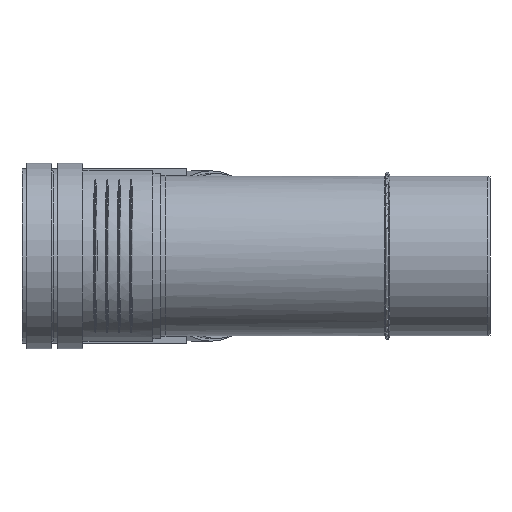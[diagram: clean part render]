
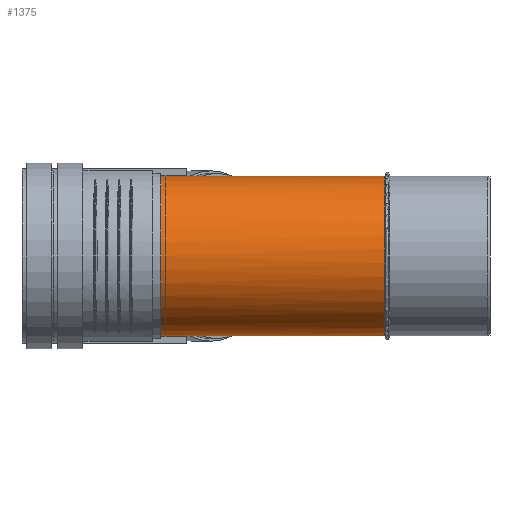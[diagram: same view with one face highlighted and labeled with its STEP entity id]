
A CAD part, left-side view. The second image highlights one B-rep face of the part: STEP entity #1375.
In plain terms, the highlighted cylindrical face has radius 55.1 mm (diameter 110.2 mm), a full revolution.
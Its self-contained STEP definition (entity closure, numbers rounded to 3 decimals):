
#115=ELLIPSE($,#1482,59.64,55.1);
#116=ELLIPSE($,#1483,143.983,55.1);
#117=ELLIPSE($,#1484,59.64,55.1);
#206=CYLINDRICAL_SURFACE($,#1481,55.1);
#265=FACE_BOUND($,#416,.T.);
#331=FACE_OUTER_BOUND($,#415,.T.);
#415=EDGE_LOOP($,(#941,#942,#943,#944));
#416=EDGE_LOOP($,(#945));
#553=CIRCLE($,#1477,55.1);
#555=CIRCLE($,#1485,55.1);
#628=VERTEX_POINT($,#2070);
#629=VERTEX_POINT($,#2071);
#631=VERTEX_POINT($,#2090);
#632=VERTEX_POINT($,#2092);
#633=VERTEX_POINT($,#2095);
#763=EDGE_CURVE($,#629,#628,#553,.T.);
#765=EDGE_CURVE($,#628,#631,#115,.T.);
#766=EDGE_CURVE($,#631,#632,#116,.T.);
#767=EDGE_CURVE($,#632,#629,#117,.T.);
#768=EDGE_CURVE($,#633,#633,#555,.T.);
#941=ORIENTED_EDGE($,*,*,#763,.T.);
#942=ORIENTED_EDGE($,*,*,#765,.T.);
#943=ORIENTED_EDGE($,*,*,#766,.T.);
#944=ORIENTED_EDGE($,*,*,#767,.T.);
#945=ORIENTED_EDGE($,*,*,#768,.T.);
#1375=ADVANCED_FACE($,(#331,#265),#206,.T.);
#1477=AXIS2_PLACEMENT_3D($,#2084,#1671,#1672);
#1481=AXIS2_PLACEMENT_3D($,#2089,#1679,#1680);
#1482=AXIS2_PLACEMENT_3D($,#2091,#1681,#1682);
#1483=AXIS2_PLACEMENT_3D($,#2093,#1683,#1684);
#1484=AXIS2_PLACEMENT_3D($,#2094,#1685,#1686);
#1485=AXIS2_PLACEMENT_3D($,#2096,#1687,#1688);
#1671=DIRECTION('center_axis',(0.,1.,0.));
#1672=DIRECTION('ref_axis',(1.,0.,0.));
#1679=DIRECTION('center_axis',(0.,1.,0.));
#1680=DIRECTION('ref_axis',(1.,0.,0.));
#1681=DIRECTION('center_axis',(-0.383,-0.924,0.));
#1682=DIRECTION('ref_axis',(0.924,-0.383,0.));
#1683=DIRECTION('center_axis',(-0.924,0.383,0.));
#1684=DIRECTION('ref_axis',(-0.383,-0.924,0.));
#1685=DIRECTION('center_axis',(-0.383,-0.924,0.));
#1686=DIRECTION('ref_axis',(0.924,-0.383,0.));
#1687=DIRECTION('center_axis',(0.,-1.,0.));
#1688=DIRECTION('ref_axis',(1.,0.,0.));
#2070=CARTESIAN_POINT('',(54.851,72.4,5.233));
#2071=CARTESIAN_POINT('',(54.851,72.4,-5.233));
#2084=CARTESIAN_POINT('Origin',(0.,72.4,0.));
#2089=CARTESIAN_POINT('Origin',(0.,0.,0.));
#2090=CARTESIAN_POINT('',(0.,95.12,55.1));
#2091=CARTESIAN_POINT('Origin',(0.,95.12,0.));
#2092=CARTESIAN_POINT('',(0.,95.12,-55.1));
#2093=CARTESIAN_POINT('Origin',(0.,95.12,0.));
#2094=CARTESIAN_POINT('Origin',(0.,95.12,0.));
#2095=CARTESIAN_POINT('',(55.1,230.52,0.));
#2096=CARTESIAN_POINT('Origin',(0.,230.52,0.));
